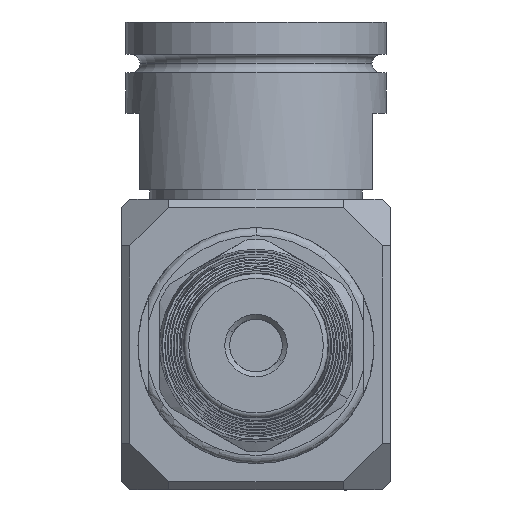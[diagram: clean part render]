
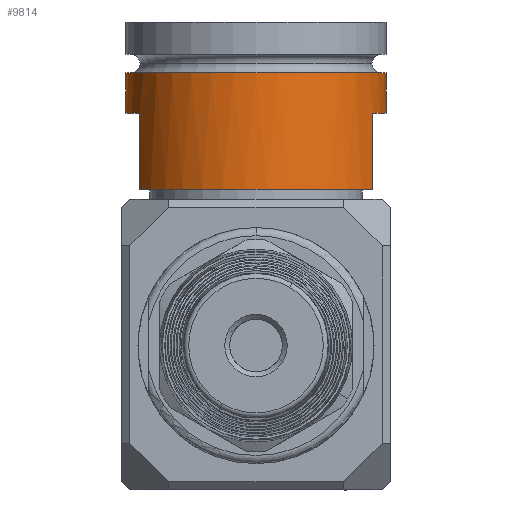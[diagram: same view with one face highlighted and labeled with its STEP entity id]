
A CAD part, front view. The second image highlights one B-rep face of the part: STEP entity #9814.
In plain terms, the highlighted cylindrical face has radius 16.294 mm (diameter 32.588 mm), a partial arc.
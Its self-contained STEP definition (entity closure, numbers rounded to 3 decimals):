
#3 = ORIENTED_EDGE ( 'NONE', *, *, #10459, .F. ) ;
#65 = CARTESIAN_POINT ( 'NONE',  ( 0., 0., -2.972 ) ) ;
#205 = DIRECTION ( 'NONE',  ( 0., 0., -1. ) ) ;
#386 = VERTEX_POINT ( 'NONE', #4102 ) ;
#463 = CARTESIAN_POINT ( 'NONE',  ( 16.294, 0., 2.108 ) ) ;
#1109 = LINE ( 'NONE', #2297, #12386 ) ;
#1295 = ORIENTED_EDGE ( 'NONE', *, *, #4346, .F. ) ;
#1476 = VERTEX_POINT ( 'NONE', #12990 ) ;
#1481 = EDGE_CURVE ( 'NONE', #11298, #386, #14455, .T. ) ;
#1558 = LINE ( 'NONE', #16820, #7727 ) ;
#1564 = CARTESIAN_POINT ( 'NONE',  ( 0., 0., 8.458 ) ) ;
#2286 = CARTESIAN_POINT ( 'NONE',  ( -16.294, 0., 8.458 ) ) ;
#2297 = CARTESIAN_POINT ( 'NONE',  ( 14.605, -7.224, -2.972 ) ) ;
#2667 = DIRECTION ( 'NONE',  ( 1., 0., 0. ) ) ;
#3024 = EDGE_CURVE ( 'NONE', #14409, #1476, #1558, .T. ) ;
#4020 = EDGE_CURVE ( 'NONE', #9772, #8326, #4270, .T. ) ;
#4102 = CARTESIAN_POINT ( 'NONE',  ( -16.294, 0., -2.972 ) ) ;
#4270 = LINE ( 'NONE', #11416, #15813 ) ;
#4316 = CIRCLE ( 'NONE', #4596, 16.294 ) ;
#4346 = EDGE_CURVE ( 'NONE', #5935, #1476, #10578, .T. ) ;
#4451 = CARTESIAN_POINT ( 'NONE',  ( 14.605, -7.224, -2.972 ) ) ;
#4517 = AXIS2_PLACEMENT_3D ( 'NONE', #12471, #11012, #2667 ) ;
#4596 = AXIS2_PLACEMENT_3D ( 'NONE', #12333, #16348, #16440 ) ;
#4640 = CYLINDRICAL_SURFACE ( 'NONE', #9253, 16.294 ) ;
#4998 = DIRECTION ( 'NONE',  ( 0., 0., -1. ) ) ;
#5008 = DIRECTION ( 'NONE',  ( 0., 0., -1. ) ) ;
#5148 = EDGE_CURVE ( 'NONE', #9772, #11298, #8589, .T. ) ;
#5333 = DIRECTION ( 'NONE',  ( 0., 0., -1. ) ) ;
#5935 = VERTEX_POINT ( 'NONE', #15840 ) ;
#6004 = ORIENTED_EDGE ( 'NONE', *, *, #5148, .T. ) ;
#6514 = DIRECTION ( 'NONE',  ( 1., 0., 0. ) ) ;
#7727 = VECTOR ( 'NONE', #8717, 1000. ) ;
#7972 = CARTESIAN_POINT ( 'NONE',  ( 0., 0., -12.497 ) ) ;
#8090 = ORIENTED_EDGE ( 'NONE', *, *, #4020, .F. ) ;
#8177 = CARTESIAN_POINT ( 'NONE',  ( 16.294, 0., -2.972 ) ) ;
#8276 = EDGE_CURVE ( 'NONE', #8326, #9733, #4316, .T. ) ;
#8326 = VERTEX_POINT ( 'NONE', #8177 ) ;
#8390 = ORIENTED_EDGE ( 'NONE', *, *, #15902, .F. ) ;
#8412 = DIRECTION ( 'NONE',  ( -1., 0., 0. ) ) ;
#8589 = CIRCLE ( 'NONE', #4517, 16.294 ) ;
#8717 = DIRECTION ( 'NONE',  ( 0., 0., -1. ) ) ;
#9253 = AXIS2_PLACEMENT_3D ( 'NONE', #1564, #205, #16827 ) ;
#9475 = EDGE_LOOP ( 'NONE', ( #6004, #10045, #3, #11737, #1295, #8390, #13940, #8090 ) ) ;
#9733 = VERTEX_POINT ( 'NONE', #4451 ) ;
#9772 = VERTEX_POINT ( 'NONE', #463 ) ;
#9814 = ADVANCED_FACE ( 'NONE', ( #13993 ), #4640, .T. ) ;
#10045 = ORIENTED_EDGE ( 'NONE', *, *, #1481, .T. ) ;
#10152 = DIRECTION ( 'NONE',  ( 0., 0., -1. ) ) ;
#10459 = EDGE_CURVE ( 'NONE', #14409, #386, #10718, .T. ) ;
#10578 = CIRCLE ( 'NONE', #16410, 16.294 ) ;
#10718 = CIRCLE ( 'NONE', #15379, 16.294 ) ;
#11012 = DIRECTION ( 'NONE',  ( 0., 0., -1. ) ) ;
#11261 = CARTESIAN_POINT ( 'NONE',  ( -14.605, -7.224, -2.972 ) ) ;
#11298 = VERTEX_POINT ( 'NONE', #14585 ) ;
#11416 = CARTESIAN_POINT ( 'NONE',  ( 16.294, 0., 8.458 ) ) ;
#11737 = ORIENTED_EDGE ( 'NONE', *, *, #3024, .T. ) ;
#12333 = CARTESIAN_POINT ( 'NONE',  ( 0., 0., -2.972 ) ) ;
#12386 = VECTOR ( 'NONE', #5008, 1000. ) ;
#12471 = CARTESIAN_POINT ( 'NONE',  ( 0., 0., 2.108 ) ) ;
#12620 = VECTOR ( 'NONE', #4998, 1000. ) ;
#12990 = CARTESIAN_POINT ( 'NONE',  ( -14.605, -7.224, -12.497 ) ) ;
#13940 = ORIENTED_EDGE ( 'NONE', *, *, #8276, .F. ) ;
#13993 = FACE_OUTER_BOUND ( 'NONE', #9475, .T. ) ;
#14409 = VERTEX_POINT ( 'NONE', #11261 ) ;
#14455 = LINE ( 'NONE', #2286, #12620 ) ;
#14585 = CARTESIAN_POINT ( 'NONE',  ( -16.294, 0., 2.108 ) ) ;
#15379 = AXIS2_PLACEMENT_3D ( 'NONE', #65, #16669, #8412 ) ;
#15813 = VECTOR ( 'NONE', #10152, 1000. ) ;
#15840 = CARTESIAN_POINT ( 'NONE',  ( 14.605, -7.224, -12.497 ) ) ;
#15902 = EDGE_CURVE ( 'NONE', #9733, #5935, #1109, .T. ) ;
#16348 = DIRECTION ( 'NONE',  ( 0., 0., -1. ) ) ;
#16410 = AXIS2_PLACEMENT_3D ( 'NONE', #7972, #5333, #6514 ) ;
#16440 = DIRECTION ( 'NONE',  ( 1., 0., 0. ) ) ;
#16669 = DIRECTION ( 'NONE',  ( 0., 0., -1. ) ) ;
#16820 = CARTESIAN_POINT ( 'NONE',  ( -14.605, -7.224, -2.972 ) ) ;
#16827 = DIRECTION ( 'NONE',  ( 1., 0., 0. ) ) ;
